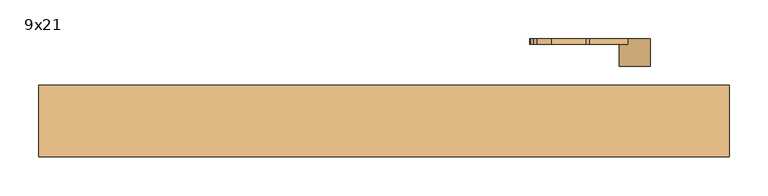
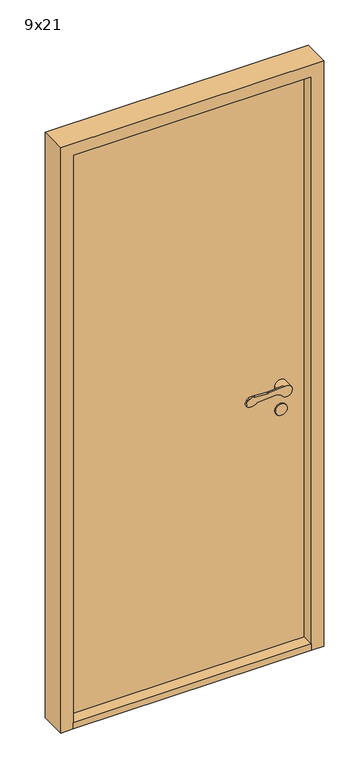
"""IFC4 building model written with IfcOpenShell, lengths in millimetres: door geometry, Innerdør Slett (Diplomat) : 9x21."""

from ifc_helpers import new_model, si_unit, point, frame, frame_2d, origin, origin_with_axes, place, context, project, spatial, polyline, circle_curve, trimmed, segment, composite_curve, outline, extrude, source, transform, mapped, element, save
from ifc_brep_helpers import plane_surface, cylinder_surface, revolved_surface, advanced_brep


def door_9x21_316ed650(model_context):
    return source(origin(), model_context, "Body", "SolidModel", [
        advanced_brep(
        [(343.9611305, -45.0, 949.1175955), (358.3841161, -45.0, 942.6204086), (396.379633, -45.0, 951.3474568), (367.2687793, -45.0, 969.1517356), (318.6891233, -45.0, 964.26032), (313.6202158, -45.0, 964.1804415), (268.8963175, -45.0, 967.2639242), (250.3175669, -45.0, 964.8810513), (245.505009, -45.0, 959.9624074), (241.8691983, -45.0, 951.8913379), (246.721536, -45.0, 938.7393398), (276.0476109, -45.0, 943.6260011), (338.8520664, -45.0, 949.9496913), (318.6891233, -37.8915284, 964.26032), (367.2687793, -37.8915284, 969.1517356), (356.379633, -37.8915284, 951.3474568), (358.3841161, -37.8915284, 942.6204086), (343.9611305, -37.8915284, 949.1175955), (338.8520664, -37.8915284, 949.9496913), (276.0476109, -37.8915284, 943.6260011), (246.721536, -37.8915284, 938.7393398), (241.8691983, -37.8915284, 951.8913379), (245.505009, -37.8915284, 959.9624074), (250.3175669, -37.8915284, 964.8810513), (268.8963175, -37.8915284, 967.2639242), (313.6202158, -37.8915284, 964.1804415), (396.379633, -10.0, 951.3474568), (356.379633, -10.0, 951.3474568)],
        [
            (0, 1),
            (1, 2, circle_curve(frame((376.379633, -45.0, 951.3474568), z_axis=(0.0, -1.0, 0.0), x_axis=(-1.0, 0.0, 0.0)), 20.0)),
            (2, 3, circle_curve(frame((376.379633, -45.0, 951.3474568), z_axis=(0.0, -1.0, 0.0), x_axis=(-1.0, 0.0, 0.0)), 20.0)),
            (3, 4),
            (4, 5, circle_curve(frame((315.683663, -45.0, 994.1093938), z_axis=(0.0, 1.0, 0.0), x_axis=(-0.9949691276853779, 0.0, -0.10018200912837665)), 30.0)),
            (5, 6),
            (6, 7, circle_curve(frame((263.2326797, -45.0, 937.8033877), z_axis=(0.0, -1.0, 0.0), x_axis=(-0.9949691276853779, 0.0, -0.10018200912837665)), 30.0)),
            (7, 8, circle_curve(frame((254.6226045, -45.0, 955.8551634), z_axis=(0.0, -1.0, 0.0), x_axis=(-0.9949691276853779, 0.0, -0.10018200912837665)), 10.0)),
            (8, 9),
            (9, 10, circle_curve(frame((250.9867937, -45.0, 947.7840939), z_axis=(0.0, -1.0, 0.0), x_axis=(-0.9949691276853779, 0.0, -0.10018200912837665)), 10.0)),
            (10, 11, circle_curve(frame((257.8569644, -45.0, 962.352734), z_axis=(0.0, -1.0, 0.0), x_axis=(-0.9949691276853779, 0.0, -0.10018200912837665)), 26.1072815)),
            (11, 12),
            (12, 0, circle_curve(frame((339.8538865, -45.0, 940.0), z_axis=(0.0, 1.0, 0.0), x_axis=(-0.9949691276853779, 0.0, -0.10018200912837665)), 10.0)),
            (13, 14),
            (14, 15, circle_curve(frame((376.379633, -37.8915284, 951.3474568), z_axis=(0.0, -1.0, 0.0), x_axis=(-1.0, 0.0, 0.0)), 20.0)),
            (15, 16, circle_curve(frame((376.379633, -37.8915284, 951.3474568), z_axis=(0.0, -1.0, 0.0), x_axis=(-1.0, 0.0, 0.0)), 20.0)),
            (16, 17),
            (17, 18, circle_curve(frame((339.8538865, -37.8915284, 940.0), z_axis=(0.0, -1.0, 0.0), x_axis=(-0.9949691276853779, 0.0, -0.10018200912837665)), 10.0)),
            (18, 19),
            (19, 20, circle_curve(frame((257.8569644, -37.8915284, 962.352734), z_axis=(0.0, 1.0, 0.0), x_axis=(-0.9949691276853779, 0.0, -0.10018200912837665)), 26.1072815)),
            (20, 21, circle_curve(frame((250.9867937, -37.8915284, 947.7840939), z_axis=(0.0, 1.0, 0.0), x_axis=(-0.9949691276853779, 0.0, -0.10018200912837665)), 10.0)),
            (21, 22),
            (22, 23, circle_curve(frame((254.6226045, -37.8915284, 955.8551634), z_axis=(0.0, 1.0, 0.0), x_axis=(-0.9949691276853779, 0.0, -0.10018200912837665)), 10.0)),
            (23, 24, circle_curve(frame((263.2326797, -37.8915284, 937.8033877), z_axis=(0.0, 1.0, 0.0), x_axis=(-0.9949691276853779, 0.0, -0.10018200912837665)), 30.0)),
            (24, 25),
            (25, 13, circle_curve(frame((315.683663, -37.8915284, 994.1093938), z_axis=(0.0, -1.0, 0.0), x_axis=(-0.9949691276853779, 0.0, -0.10018200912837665)), 30.0)),
            (3, 14),
            (13, 4),
            (16, 1),
            (0, 17),
            (12, 18),
            (11, 19),
            (10, 20),
            (9, 21),
            (8, 22),
            (7, 23),
            (6, 24),
            (5, 25),
            (26, 27, circle_curve(frame((376.379633, -10.0, 951.3474568), z_axis=(0.0, 1.0, 0.0), x_axis=(-1.0, 0.0, 0.0)), 20.0)),
            (27, 26, circle_curve(frame((376.379633, -10.0, 951.3474568), z_axis=(0.0, 1.0, 0.0), x_axis=(-1.0, 0.0, 0.0)), 20.0)),
            (26, 2),
            (15, 27),
        ],
        [
            plane_surface(frame((367.6960588, -45.0, 969.1947577), z_axis=(0.0, -1.0000000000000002, 0.0), x_axis=(0.9949691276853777, 0.0, 0.10018200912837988))),
            plane_surface(frame((367.6960588, -37.8915284, 969.1947577), z_axis=(0.0, 1.0000000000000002, 0.0), x_axis=(-0.9949691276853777, 0.0, -0.10018200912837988))),
            plane_surface(frame((318.6891233, -45.0, 964.26032), z_axis=(-0.10018200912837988, 0.0, 0.9949691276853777), x_axis=(0.0, 1.0, 0.0))),
            plane_surface(frame((376.9687366, -45.0, 934.2485115), z_axis=(-0.41072439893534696, 0.0, -0.91175954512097), x_axis=(0.0, 1.0, 0.0))),
            revolved_surface(polyline([(329.9041952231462, -37.8915284, 938.9981799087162), (329.9041952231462, -45.0, 938.9981799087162)]), (339.8538865, -37.8915284, 940.0), (0.0, 1.0, 0.0)),
            plane_surface(frame((338.8520664, -45.0, 949.9496913), z_axis=(0.10018200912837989, 0.0, -0.9949691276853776), x_axis=(0.0, 1.0, 0.0))),
            cylinder_surface(frame((257.8569644, -37.8915284, 962.352734), z_axis=(0.0, -1.0, 0.0), x_axis=(-0.9949691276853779, 0.0, -0.10018200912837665)), 26.1072815),
            cylinder_surface(frame((250.9867937, -37.8915284, 947.7840939), z_axis=(0.0, -1.0, 0.0), x_axis=(-0.9949691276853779, 0.0, -0.10018200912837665)), 10.0),
            plane_surface(frame((241.8691983, -45.0, 951.8913379), z_axis=(-0.9117595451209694, 0.0, 0.41072439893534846), x_axis=(0.0, 1.0, 0.0))),
            cylinder_surface(frame((254.6226045, -37.8915284, 955.8551634), z_axis=(0.0, -1.0, 0.0), x_axis=(-0.9949691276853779, 0.0, -0.10018200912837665)), 10.0),
            cylinder_surface(frame((263.2326797, -37.8915284, 937.8033877), z_axis=(0.0, -1.0, 0.0), x_axis=(-0.9949691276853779, 0.0, -0.10018200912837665)), 30.0),
            plane_surface(frame((268.8963175, -45.0, 967.2639242), z_axis=(0.06878157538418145, 0.0, 0.9976317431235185), x_axis=(0.0, 1.0, 0.0))),
            revolved_surface(polyline([(285.8345891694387, -37.8915284, 991.1039335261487), (285.8345891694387, -45.0, 991.1039335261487)]), (315.683663, -37.8915284, 994.1093938), (0.0, 1.0, 0.0)),
            plane_surface(frame((356.379633, -10.0, 951.3474568), z_axis=(0.0, 1.0, 0.0), x_axis=(0.0, 0.0, -1.0))),
            cylinder_surface(frame((376.379633, -10.0, 951.3474568), z_axis=(0.0, -1.0, 0.0), x_axis=(-1.0, 0.0, 0.0)), 20.0),
        ],
        [
            (0, [[1, 2, 3, 4, 5, 6, 7, 8, 9, 10, 11, 12, 13]]),
            (1, [[14, 15, 16, 17, 18, 19, 20, 21, 22, 23, 24, 25, 26]]),
            (2, [[-4, 27, -14, 28]]),
            (3, [[-17, 29, -1, 30]]),
            (4, [[31, -18, -30, -13]]),
            (5, [[32, -19, -31, -12]]),
            (6, [[33, -20, -32, -11]]),
            (7, [[34, -21, -33, -10]]),
            (8, [[35, -22, -34, -9]]),
            (9, [[36, -23, -35, -8]]),
            (10, [[37, -24, -36, -7]]),
            (11, [[38, -25, -37, -6]]),
            (12, [[-28, -26, -38, -5]]),
            (13, [[39, 40]]),
            (14, [[41, -2, -29, -16, 42, -39]]),
            (14, [[-42, -15, -27, -3, -41, -40]]),
        ],
    ),
        extrude(outline(composite_curve([segment(trimmed(circle_curve(frame_2d((866.3474568, 376.379633)), 20.0), [point((866.3474568, 396.379633))], [point((866.3474568, 356.379633))], False, "CARTESIAN"), True, "CONTINUOUS"), segment(trimmed(circle_curve(frame_2d((866.3474568, 376.379633)), 20.0), [point((866.3474568, 356.379633))], [point((866.3474568, 396.379633))], False, "CARTESIAN"), True, "CONTINUOUS")], self_intersect=False)), frame((0.0, -15.0, 0.0), z_axis=(0.0, 1.0, 0.0), x_axis=(0.0, 0.0, 1.0)), (0.0, 0.0, 1.0), 5.0),
        advanced_brep(
        [(343.9611305, 100.0, 949.1175955), (338.8520664, 100.0, 949.9496913), (276.0476109, 100.0, 943.6260011), (246.721536, 100.0, 938.7393398), (241.8691983, 100.0, 951.8913379), (245.505009, 100.0, 959.9624074), (250.3175669, 100.0, 964.8810513), (268.8963175, 100.0, 967.2639242), (313.6202158, 100.0, 964.1804415), (318.6891233, 100.0, 964.26032), (367.2687793, 100.0, 969.1517356), (396.379633, 100.0, 951.3474568), (358.3841161, 100.0, 942.6204086), (318.6891233, 92.8915284, 964.26032), (313.6202158, 92.8915284, 964.1804415), (268.8963175, 92.8915284, 967.2639242), (250.3175669, 92.8915284, 964.8810513), (245.505009, 92.8915284, 959.9624074), (241.8691983, 92.8915284, 951.8913379), (246.721536, 92.8915284, 938.7393398), (276.0476109, 92.8915284, 943.6260011), (338.8520664, 92.8915284, 949.9496913), (343.9611305, 92.8915284, 949.1175955), (358.3841161, 92.8915284, 942.6204086), (356.379633, 92.8915284, 951.3474568), (367.2687793, 92.8915284, 969.1517356), (396.379633, 65.0, 951.3474568), (356.379633, 65.0, 951.3474568)],
        [
            (0, 1, circle_curve(frame((339.8538865, 100.0, 940.0), z_axis=(0.0, -1.0, 0.0), x_axis=(-0.9949691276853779, 0.0, -0.10018200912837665)), 10.0)),
            (1, 2),
            (2, 3, circle_curve(frame((257.8569644, 100.0, 962.352734), z_axis=(0.0, 1.0, 0.0), x_axis=(-0.9949691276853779, 0.0, -0.10018200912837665)), 26.1072815)),
            (3, 4, circle_curve(frame((250.9867937, 100.0, 947.7840939), z_axis=(0.0, 1.0, 0.0), x_axis=(-0.9949691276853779, 0.0, -0.10018200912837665)), 10.0)),
            (4, 5),
            (5, 6, circle_curve(frame((254.6226045, 100.0, 955.8551634), z_axis=(0.0, 1.0, 0.0), x_axis=(-0.9949691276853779, 0.0, -0.10018200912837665)), 10.0)),
            (6, 7, circle_curve(frame((263.2326797, 100.0, 937.8033877), z_axis=(0.0, 1.0, 0.0), x_axis=(-0.9949691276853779, 0.0, -0.10018200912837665)), 30.0)),
            (7, 8),
            (8, 9, circle_curve(frame((315.683663, 100.0, 994.1093938), z_axis=(0.0, -1.0, 0.0), x_axis=(-0.9949691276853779, 0.0, -0.10018200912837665)), 30.0)),
            (9, 10),
            (10, 11, circle_curve(frame((376.379633, 100.0, 951.3474568), z_axis=(0.0, 1.0, 0.0), x_axis=(-1.0, 0.0, 0.0)), 20.0)),
            (11, 12, circle_curve(frame((376.379633, 100.0, 951.3474568), z_axis=(0.0, 1.0, 0.0), x_axis=(-1.0, 0.0, 0.0)), 20.0)),
            (12, 0),
            (13, 14, circle_curve(frame((315.683663, 92.8915284, 994.1093938), z_axis=(0.0, 1.0, 0.0), x_axis=(-0.9949691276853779, 0.0, -0.10018200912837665)), 30.0)),
            (14, 15),
            (15, 16, circle_curve(frame((263.2326797, 92.8915284, 937.8033877), z_axis=(0.0, -1.0, 0.0), x_axis=(-0.9949691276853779, 0.0, -0.10018200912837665)), 30.0)),
            (16, 17, circle_curve(frame((254.6226045, 92.8915284, 955.8551634), z_axis=(0.0, -1.0, 0.0), x_axis=(-0.9949691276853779, 0.0, -0.10018200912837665)), 10.0)),
            (17, 18),
            (18, 19, circle_curve(frame((250.9867937, 92.8915284, 947.7840939), z_axis=(0.0, -1.0, 0.0), x_axis=(-0.9949691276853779, 0.0, -0.10018200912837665)), 10.0)),
            (19, 20, circle_curve(frame((257.8569644, 92.8915284, 962.352734), z_axis=(0.0, -1.0, 0.0), x_axis=(-0.9949691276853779, 0.0, -0.10018200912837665)), 26.1072815)),
            (20, 21),
            (21, 22, circle_curve(frame((339.8538865, 92.8915284, 940.0), z_axis=(0.0, 1.0, 0.0), x_axis=(-0.9949691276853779, 0.0, -0.10018200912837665)), 10.0)),
            (22, 23),
            (23, 24, circle_curve(frame((376.379633, 92.8915284, 951.3474568), z_axis=(0.0, 1.0, 0.0), x_axis=(-1.0, 0.0, 0.0)), 20.0)),
            (24, 25, circle_curve(frame((376.379633, 92.8915284, 951.3474568), z_axis=(0.0, 1.0, 0.0), x_axis=(-1.0, 0.0, 0.0)), 20.0)),
            (25, 13),
            (9, 13),
            (25, 10),
            (22, 0),
            (12, 23),
            (21, 1),
            (20, 2),
            (19, 3),
            (18, 4),
            (17, 5),
            (16, 6),
            (15, 7),
            (14, 8),
            (26, 27, circle_curve(frame((376.379633, 65.0, 951.3474568), z_axis=(0.0, -1.0, 0.0), x_axis=(-1.0, 0.0, 0.0)), 20.0)),
            (27, 26, circle_curve(frame((376.379633, 65.0, 951.3474568), z_axis=(0.0, -1.0, 0.0), x_axis=(-1.0, 0.0, 0.0)), 20.0)),
            (27, 24),
            (11, 26),
        ],
        [
            plane_surface(frame((367.6960588, 100.0, 969.1947577), z_axis=(0.0, 1.0000000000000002, 0.0), x_axis=(0.9949691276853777, 0.0, 0.10018200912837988))),
            plane_surface(frame((367.6960588, 92.8915284, 969.1947577), z_axis=(0.0, -1.0000000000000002, 0.0), x_axis=(-0.9949691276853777, 0.0, -0.10018200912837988))),
            plane_surface(frame((318.6891233, 100.0, 964.26032), z_axis=(-0.10018200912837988, 0.0, 0.9949691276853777), x_axis=(0.0, -1.0, 0.0))),
            plane_surface(frame((376.9687366, 100.0, 934.2485115), z_axis=(-0.41072439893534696, 0.0, -0.91175954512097), x_axis=(0.0, -1.0, 0.0))),
            revolved_surface(polyline([(329.9041952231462, 92.8915284, 938.9981799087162), (329.9041952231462, 100.0, 938.9981799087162)]), (339.8538865, 92.8915284, 940.0), (0.0, -1.0, 0.0)),
            plane_surface(frame((338.8520664, 100.0, 949.9496913), z_axis=(0.10018200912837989, 0.0, -0.9949691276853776), x_axis=(0.0, -1.0, 0.0))),
            cylinder_surface(frame((257.8569644, 92.8915284, 962.352734), z_axis=(0.0, 1.0, 0.0), x_axis=(-0.9949691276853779, 0.0, -0.10018200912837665)), 26.1072815),
            cylinder_surface(frame((250.9867937, 92.8915284, 947.7840939), z_axis=(0.0, 1.0, 0.0), x_axis=(-0.9949691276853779, 0.0, -0.10018200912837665)), 10.0),
            plane_surface(frame((241.8691983, 100.0, 951.8913379), z_axis=(-0.9117595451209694, 0.0, 0.41072439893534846), x_axis=(0.0, -1.0, 0.0))),
            cylinder_surface(frame((254.6226045, 92.8915284, 955.8551634), z_axis=(0.0, 1.0, 0.0), x_axis=(-0.9949691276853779, 0.0, -0.10018200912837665)), 10.0),
            cylinder_surface(frame((263.2326797, 92.8915284, 937.8033877), z_axis=(0.0, 1.0, 0.0), x_axis=(-0.9949691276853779, 0.0, -0.10018200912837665)), 30.0),
            plane_surface(frame((268.8963175, 100.0, 967.2639242), z_axis=(0.06878157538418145, 0.0, 0.9976317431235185), x_axis=(0.0, -1.0, 0.0))),
            revolved_surface(polyline([(285.8345891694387, 92.8915284, 991.1039335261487), (285.8345891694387, 100.0, 991.1039335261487)]), (315.683663, 92.8915284, 994.1093938), (0.0, -1.0, 0.0)),
            plane_surface(frame((356.379633, 65.0, 951.3474568), z_axis=(0.0, -1.0, 0.0), x_axis=(0.0, 0.0, -1.0))),
            cylinder_surface(frame((376.379633, 65.0, 951.3474568), z_axis=(0.0, 1.0, 0.0), x_axis=(-1.0, 0.0, 0.0)), 20.0),
        ],
        [
            (0, [[1, 2, 3, 4, 5, 6, 7, 8, 9, 10, 11, 12, 13]]),
            (1, [[14, 15, 16, 17, 18, 19, 20, 21, 22, 23, 24, 25, 26]]),
            (2, [[27, -26, 28, -10]]),
            (3, [[29, -13, 30, -23]]),
            (4, [[-1, -29, -22, 31]]),
            (5, [[-2, -31, -21, 32]]),
            (6, [[-3, -32, -20, 33]]),
            (7, [[-4, -33, -19, 34]]),
            (8, [[-5, -34, -18, 35]]),
            (9, [[-6, -35, -17, 36]]),
            (10, [[-7, -36, -16, 37]]),
            (11, [[-8, -37, -15, 38]]),
            (12, [[-9, -38, -14, -27]]),
            (13, [[39, 40]]),
            (14, [[-40, 41, -24, -30, -12, 42]]),
            (14, [[-39, -42, -11, -28, -25, -41]]),
        ],
    ),
        extrude(outline(composite_curve([segment(trimmed(circle_curve(frame_2d((866.3474568, 376.379633)), 20.0), [point((866.3474568, 396.379633))], [point((866.3474568, 356.379633))], False, "CARTESIAN"), True, "CONTINUOUS"), segment(trimmed(circle_curve(frame_2d((866.3474568, 376.379633)), 20.0), [point((866.3474568, 356.379633))], [point((866.3474568, 396.379633))], False, "CARTESIAN"), True, "CONTINUOUS")], self_intersect=False)), frame((0.0, 65.0, 0.0), z_axis=(0.0, 1.0, 0.0), x_axis=(0.0, 0.0, 1.0)), (0.0, 0.0, 1.0), 5.0),
        extrude(outline(polyline([(456.379633, -52.0), (-349.620367, -52.0), (-349.620367, 40.0), (456.379633, 40.0), (456.379633, -52.0)])), origin_with_axes(), (0.0, 0.0, 1.0), 22.0),
        extrude(outline(polyline([(456.379633, -10.0), (-349.620367, -10.0), (-349.620367, 40.0), (456.379633, 40.0), (456.379633, -10.0)])), frame((0.0, 0.0, 22.0), z_axis=(0.0, 0.0, 1.0), x_axis=(1.0, 0.0, 0.0)), (0.0, 0.0, 1.0), 2031.0),
        extrude(outline(polyline([(0.0, -391.620367), (0.0, -349.620367), (2053.0, -349.620367), (2053.0, 456.379633), (0.0, 456.379633), (0.0, 498.379633), (2095.0, 498.379633), (2095.0, -391.620367), (0.0, -391.620367)])), frame((0.0, -52.0, 0.0), z_axis=(0.0, 1.0, 0.0), x_axis=(0.0, 0.0, 1.0)), (0.0, 0.0, 1.0), 92.0),
    ])


if __name__ == "__main__":
    model = new_model("IFC4")
    model_context = context("Model", 3, world=origin())
    ifc_project = project(units=[si_unit("LENGTHUNIT", "METRE", prefix="MILLI")], contexts=[model_context])
    site = spatial("IfcSite", under=ifc_project)
    building = spatial("IfcBuilding", under=site)
    placement = place(None, origin())
    door_9x21_shape = door_9x21_316ed650(model_context)
    element("IfcDoor", 1, ObjectType="Innerdør Slett (Diplomat) : 9x21", at=placement, inside=building, context=model_context, shape_type="MappedRepresentation", body=[
        mapped(door_9x21_shape, transform((0.0, 0.0, 0.0), x_axis=(1.0, 0.0, 0.0), y_axis=(0.0, 1.0, 0.0), z_axis=(0.0, 0.0, 1.0))),
    ])
    save(model, "model.ifc")
